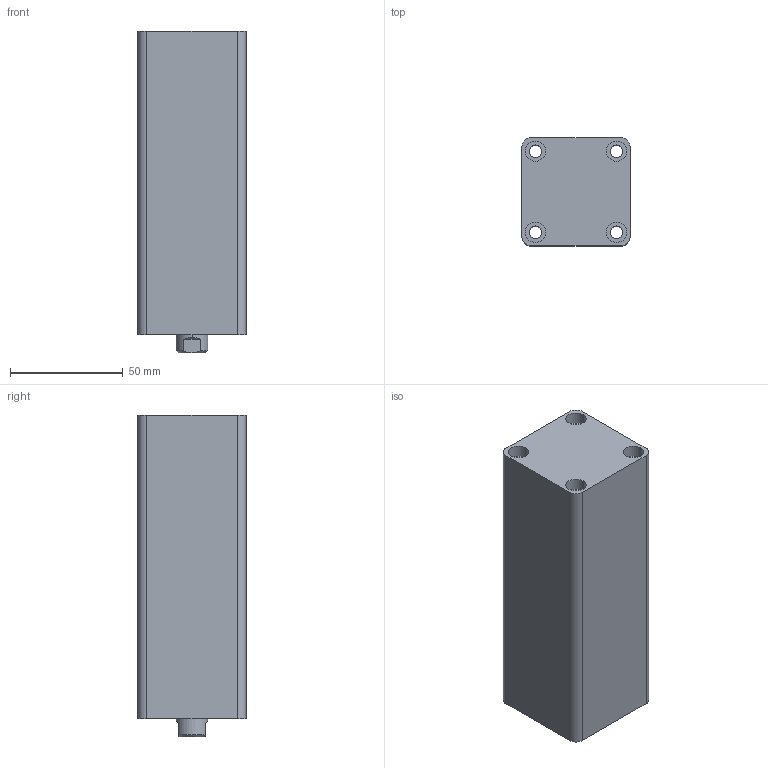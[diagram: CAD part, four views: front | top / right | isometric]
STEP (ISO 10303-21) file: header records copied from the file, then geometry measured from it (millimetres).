
FILE_DESCRIPTION (( 'STEP AP203' ), '1' );
FILE_NAME ('HTB-SD25-90N.STEP', '2019-10-07T06:20:45', ( '微软用户' ), ( '微软中国' ), 'SwSTEP 2.0', 'SolidWorks 2012', '' );
FILE_SCHEMA (( 'CONFIG_CONTROL_DESIGN' ));
Length unit declared in the file: millimetre
Products named in the file (3): HTB-SD25-90掛极; HTB-SD25-90N活塞杆; HTB-SD25-90N
Assembly tree (2 placements, depth 2):
  HTB-SD25-90N
    HTB-SD25-90掛极
    HTB-SD25-90N活塞杆
Bounding box: 48 x 48 x 143 mm (x, y, z)
Volume: 263097 mm3; surface area: 57471.2 mm2
Topology: 2 solids, 2 shells, 83 faces, 182 edges, 117 vertices
Faces by surface type: cylinder 42, plane 27, cone 8, torus 6
Entity records: 2653 total; most frequent: DIRECTION 454, CARTESIAN_POINT 429, ORIENTED_EDGE 360, AXIS2_PLACEMENT_3D 194, EDGE_CURVE 180, VERTEX_POINT 117, EDGE_LOOP 107, CIRCLE 106
